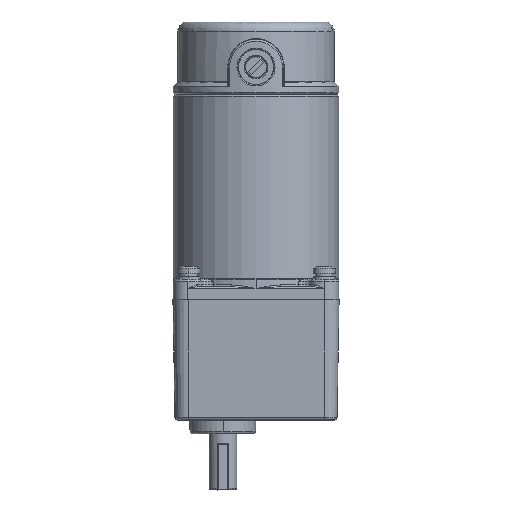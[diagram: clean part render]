
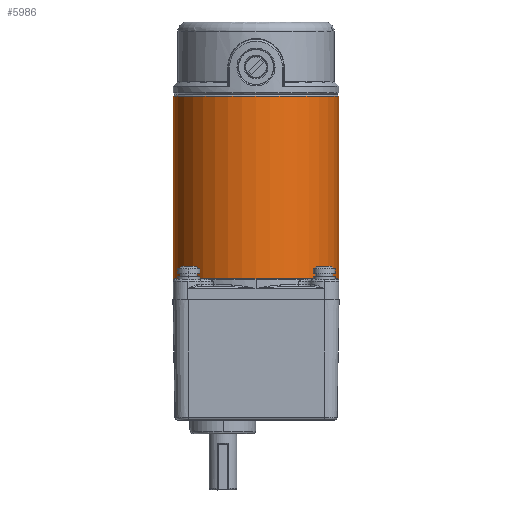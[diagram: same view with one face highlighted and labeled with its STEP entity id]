
A CAD part, left-side view. The second image highlights one B-rep face of the part: STEP entity #5986.
In plain terms, the highlighted cylindrical face has radius 45 mm (diameter 90 mm), a partial arc.
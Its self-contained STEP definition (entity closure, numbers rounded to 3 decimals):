
#463 = ORIENTED_EDGE ( 'NONE', *, *, #22195, .F. ) ;
#567 = EDGE_CURVE ( 'NONE', #14193, #17347, #22622, .T. ) ;
#2346 = EDGE_CURVE ( 'NONE', #17982, #21524, #4451, .T. ) ;
#4451 = CIRCLE ( 'NONE', #21807, 45. ) ;
#5986 = ADVANCED_FACE ( 'NONE', ( #16142 ), #11596, .T. ) ;
#6016 = CARTESIAN_POINT ( 'NONE',  ( -7.759, 100., -45. ) ) ;
#6064 = DIRECTION ( 'NONE',  ( 0., 1., 0. ) ) ;
#6127 = DIRECTION ( 'NONE',  ( 0., 0., 1. ) ) ;
#7133 = DIRECTION ( 'NONE',  ( 0., 1., 0. ) ) ;
#7342 = DIRECTION ( 'NONE',  ( 0., 0., 1. ) ) ;
#8527 = CARTESIAN_POINT ( 'NONE',  ( -7.759, 100., 45. ) ) ;
#9455 = EDGE_CURVE ( 'NONE', #17347, #17982, #23387, .T. ) ;
#10063 = CARTESIAN_POINT ( 'NONE',  ( -7.759, 0.828, 0. ) ) ;
#10622 = CARTESIAN_POINT ( 'NONE',  ( -7.759, 0., 45. ) ) ;
#11138 = CARTESIAN_POINT ( 'NONE',  ( -7.759, 0.828, -45. ) ) ;
#11295 = DIRECTION ( 'NONE',  ( 0., 1., 0. ) ) ;
#11404 = CARTESIAN_POINT ( 'NONE',  ( -7.759, 0.828, 45. ) ) ;
#11596 = CYLINDRICAL_SURFACE ( 'NONE', #14387, 45. ) ;
#12026 = VECTOR ( 'NONE', #11295, 1000. ) ;
#12882 = CARTESIAN_POINT ( 'NONE',  ( -7.759, 100., 0. ) ) ;
#13200 = ORIENTED_EDGE ( 'NONE', *, *, #567, .T. ) ;
#13793 = DIRECTION ( 'NONE',  ( 0., 1., 0. ) ) ;
#13885 = DIRECTION ( 'NONE',  ( 0., 0., 1. ) ) ;
#14082 = CARTESIAN_POINT ( 'NONE',  ( -7.759, 0., 0. ) ) ;
#14193 = VERTEX_POINT ( 'NONE', #11138 ) ;
#14387 = AXIS2_PLACEMENT_3D ( 'NONE', #14082, #13793, #7342 ) ;
#15985 = CARTESIAN_POINT ( 'NONE',  ( -7.759, 0., -45. ) ) ;
#16142 = FACE_OUTER_BOUND ( 'NONE', #24556, .T. ) ;
#17132 = VECTOR ( 'NONE', #6064, 1000. ) ;
#17347 = VERTEX_POINT ( 'NONE', #11404 ) ;
#17982 = VERTEX_POINT ( 'NONE', #8527 ) ;
#18831 = ORIENTED_EDGE ( 'NONE', *, *, #2346, .T. ) ;
#18880 = AXIS2_PLACEMENT_3D ( 'NONE', #10063, #7133, #13885 ) ;
#19937 = ORIENTED_EDGE ( 'NONE', *, *, #9455, .T. ) ;
#21524 = VERTEX_POINT ( 'NONE', #6016 ) ;
#21807 = AXIS2_PLACEMENT_3D ( 'NONE', #12882, #28276, #6127 ) ;
#22195 = EDGE_CURVE ( 'NONE', #14193, #21524, #25076, .T. ) ;
#22622 = CIRCLE ( 'NONE', #18880, 45. ) ;
#23387 = LINE ( 'NONE', #10622, #17132 ) ;
#24556 = EDGE_LOOP ( 'NONE', ( #463, #13200, #19937, #18831 ) ) ;
#25076 = LINE ( 'NONE', #15985, #12026 ) ;
#28276 = DIRECTION ( 'NONE',  ( 0., -1., 0. ) ) ;
